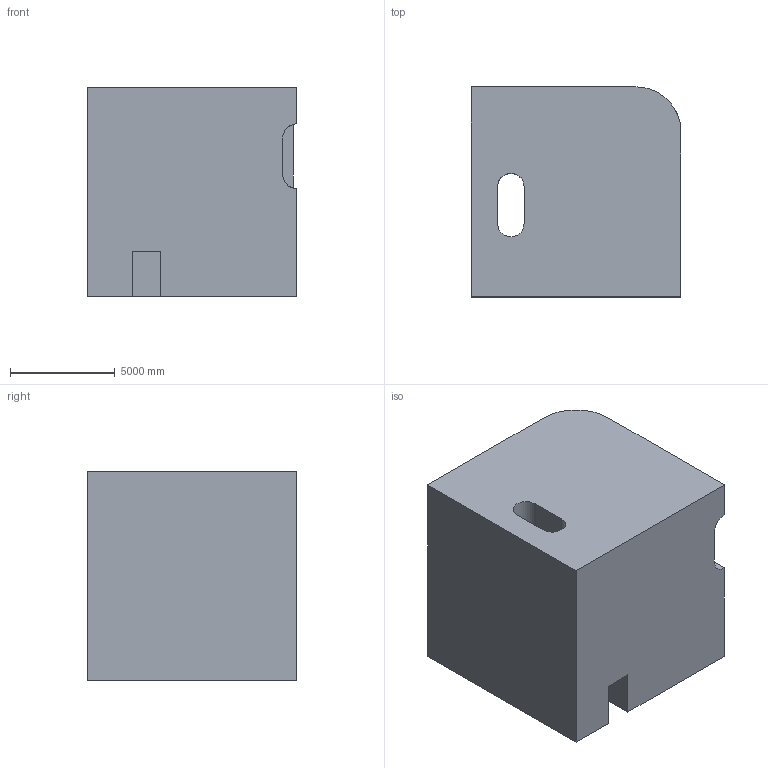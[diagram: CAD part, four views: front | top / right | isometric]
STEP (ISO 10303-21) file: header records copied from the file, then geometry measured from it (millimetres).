
FILE_DESCRIPTION (( 'STEP AP203' ), '1' );
FILE_NAME ('1507.STEP', '2022-08-18T14:54:48', ( 'user' ), ( '' ), 'SwSTEP 2.0', 'SolidWorks 2021', '' );
FILE_SCHEMA (( 'CONFIG_CONTROL_DESIGN' ));
Length unit declared in the file: centimetre
Products named in the file (1): 1507
Bounding box: 10000 x 10000 x 10000 mm (x, y, z)
Volume: 912439003018 mm3; surface area: 714210002.3 mm2
Topology: 1 solids, 1 shells, 27 faces, 75 edges, 50 vertices
Faces by surface type: plane 22, cylinder 5
Entity records: 983 total; most frequent: CARTESIAN_POINT 197, ORIENTED_EDGE 150, DIRECTION 142, EDGE_CURVE 75, LINE 60, VECTOR 60, VERTEX_POINT 50, AXIS2_PLACEMENT_3D 41
